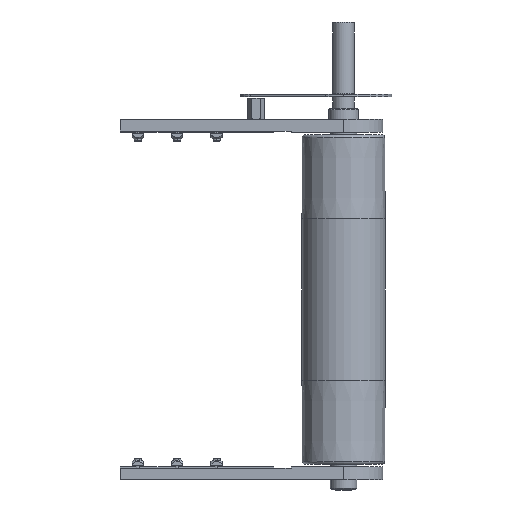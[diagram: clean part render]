
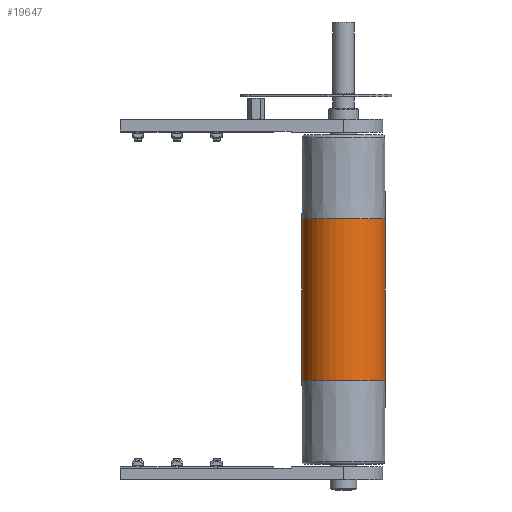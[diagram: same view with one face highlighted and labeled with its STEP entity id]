
A CAD part, front view. The second image highlights one B-rep face of the part: STEP entity #19647.
In plain terms, the highlighted cylindrical face has radius 47.5 mm (diameter 95 mm), a partial arc.
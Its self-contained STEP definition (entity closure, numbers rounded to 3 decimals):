
#640 = VERTEX_POINT ( 'NONE', #4922 ) ;
#641 = VERTEX_POINT ( 'NONE', #4923 ) ;
#643 = VERTEX_POINT ( 'NONE', #4925 ) ;
#644 = VERTEX_POINT ( 'NONE', #4926 ) ;
#786 = EDGE_LOOP ( 'NONE', ( #18086, #18087, #18088, #18089 ) ) ;
#1544 = VECTOR ( 'NONE', #13889, 1000. ) ;
#3053 = CIRCLE ( 'NONE', #3059, 47.5 ) ;
#3059 = AXIS2_PLACEMENT_3D ( 'NONE', #10183, #10184, #10185 ) ;
#4922 = CARTESIAN_POINT ( 'NONE',  ( 92.5, 0., -47.5 ) ) ;
#4923 = CARTESIAN_POINT ( 'NONE',  ( 92.5, 0., 47.5 ) ) ;
#4925 = CARTESIAN_POINT ( 'NONE',  ( -92.5, 0., -47.5 ) ) ;
#4926 = CARTESIAN_POINT ( 'NONE',  ( -92.5, 0., 47.5 ) ) ;
#5377 = VECTOR ( 'NONE', #20545, 1000. ) ;
#5570 = CIRCLE ( 'NONE', #5573, 47.5 ) ;
#5573 = AXIS2_PLACEMENT_3D ( 'NONE', #13514, #13515, #13516 ) ;
#10183 = CARTESIAN_POINT ( 'NONE',  ( -92.5, 0., 0. ) ) ;
#10184 = DIRECTION ( 'NONE',  ( 1., 0., 0. ) ) ;
#10185 = DIRECTION ( 'NONE',  ( 0., 0., -1. ) ) ;
#13514 = CARTESIAN_POINT ( 'NONE',  ( 92.5, 0., 0. ) ) ;
#13515 = DIRECTION ( 'NONE',  ( 1., 0., 0. ) ) ;
#13516 = DIRECTION ( 'NONE',  ( 0., 0., -1. ) ) ;
#13887 = LINE ( 'NONE', #13888, #1544 ) ;
#13888 = CARTESIAN_POINT ( 'NONE',  ( 185., 0., -47.5 ) ) ;
#13889 = DIRECTION ( 'NONE',  ( -1., 0., 0. ) ) ;
#16111 = DIRECTION ( 'NONE',  ( -1., 0., 0. ) ) ;
#16112 = CYLINDRICAL_SURFACE ( 'NONE', #17880, 47.5 ) ;
#16113 = FACE_OUTER_BOUND ( 'NONE', #786, .T. ) ;
#16118 = CARTESIAN_POINT ( 'NONE',  ( 185., 0., 0. ) ) ;
#16119 = DIRECTION ( 'NONE',  ( 0., 0., 1. ) ) ;
#17880 = AXIS2_PLACEMENT_3D ( 'NONE', #16118, #16111, #16119 ) ;
#18086 = ORIENTED_EDGE ( 'NONE', *, *, #19099, .F. ) ;
#18087 = ORIENTED_EDGE ( 'NONE', *, *, #18984, .F. ) ;
#18088 = ORIENTED_EDGE ( 'NONE', *, *, #18849, .T. ) ;
#18089 = ORIENTED_EDGE ( 'NONE', *, *, #18290, .T. ) ;
#18290 = EDGE_CURVE ( 'NONE', #644, #643, #3053, .T. ) ;
#18849 = EDGE_CURVE ( 'NONE', #641, #644, #20539, .T. ) ;
#18984 = EDGE_CURVE ( 'NONE', #641, #640, #5570, .T. ) ;
#19099 = EDGE_CURVE ( 'NONE', #640, #643, #13887, .T. ) ;
#19647 = ADVANCED_FACE ( 'NONE', ( #16113 ), #16112, .T. ) ;
#20534 = CARTESIAN_POINT ( 'NONE',  ( 185., 0., 47.5 ) ) ;
#20539 = LINE ( 'NONE', #20534, #5377 ) ;
#20545 = DIRECTION ( 'NONE',  ( -1., 0., 0. ) ) ;
